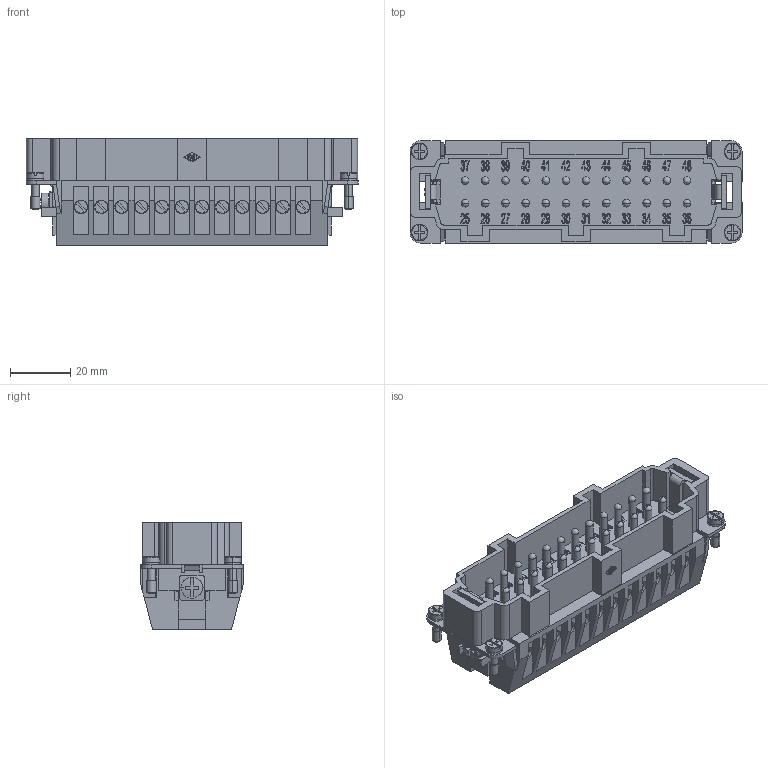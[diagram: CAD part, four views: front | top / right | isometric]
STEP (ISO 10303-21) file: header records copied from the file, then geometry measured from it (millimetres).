
FILE_DESCRIPTION (( 'STEP AP214' ), '1' );
FILE_NAME ('CNEM24.STEP', '2015-07-01T11:45:59', ( 'richard gronsfeld' ), ( '' ), 'SwSTEP 2.0', 'SolidWorks 2007', '' );
FILE_SCHEMA (( 'AUTOMOTIVE_DESIGN' ));
Length unit declared in the file: millimetre
Products named in the file (1): CNEM24
Bounding box: 110.3 x 34 x 35.5 mm (x, y, z)
Volume: 60896.9 mm3; surface area: 43623.1 mm2
Topology: 3 solids, 3 shells, 3046 faces, 8744 edges, 5744 vertices
Faces by surface type: plane 1769, bspline 843, cylinder 395, sphere 25, cone 8, torus 6
Entity records: 138576 total; most frequent: CARTESIAN_POINT 30833, ORIENTED_EDGE 17340, DIRECTION 12330, EDGE_CURVE 8670, VERTEX_POINT 5720, LINE 5480, VECTOR 5480, AXIS2_PLACEMENT_3D 3425
